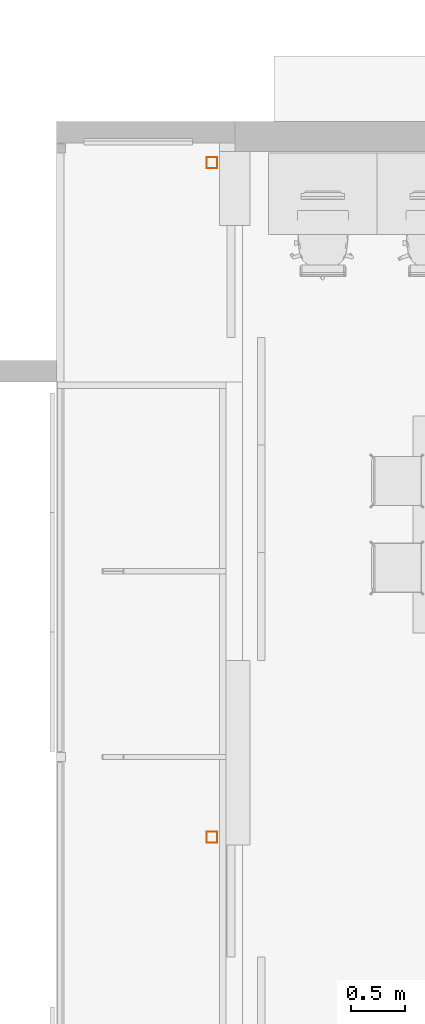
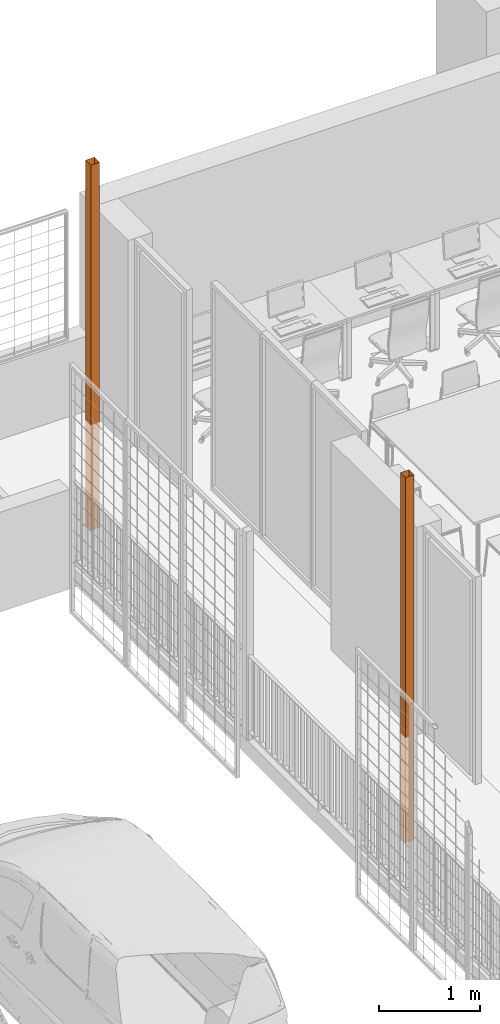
# One storey, part 50 of 51: 2 proxies.
"""IFC2X3 building model written with IfcOpenShell, lengths in metres."""

from ifc_helpers import new_model, entity, si_unit, converted_unit, derived_unit, direction, frame, origin, place, context, subcontext, project, spatial, faceted_brep, source, transform, mapped, material, type_object, type_shapes, element, save


model = new_model("IFC2X3")

# Units and contexts
model_context = context("Model", 3, precision=1e-05, world=origin(), true_north=direction((6.123031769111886e-17, 1.0)))
body_context = subcontext(model_context, "Body", "Model", "MODEL_VIEW")
ifc_project = project(units=[si_unit("LENGTHUNIT", "METRE"), si_unit("AREAUNIT", "SQUARE_METRE"), si_unit("VOLUMEUNIT", "CUBIC_METRE"), converted_unit("PLANEANGLEUNIT", "DEGREE", entity("IfcRatioMeasure", 0.017453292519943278), si_unit("PLANEANGLEUNIT", "RADIAN"), dimensions=[0, 0, 0, 0, 0, 0, 0]), si_unit("MASSUNIT", "GRAM", prefix="KILO"), derived_unit("MASSDENSITYUNIT", [(si_unit("MASSUNIT", "GRAM", prefix="KILO"), 1), (si_unit("LENGTHUNIT", "METRE"), -3)]), derived_unit("MOMENTOFINERTIAUNIT", [(si_unit("LENGTHUNIT", "METRE"), 4)]), si_unit("TIMEUNIT", "SECOND"), si_unit("FREQUENCYUNIT", "HERTZ"), si_unit("THERMODYNAMICTEMPERATUREUNIT", "DEGREE_CELSIUS"), derived_unit("THERMALTRANSMITTANCEUNIT", [(si_unit("MASSUNIT", "GRAM", prefix="KILO"), 1), (si_unit("THERMODYNAMICTEMPERATUREUNIT", "KELVIN"), -1), (si_unit("TIMEUNIT", "SECOND"), -3)]), derived_unit("THERMALCONDUCTANCEUNIT", [(si_unit("MASSUNIT", "GRAM", prefix="KILO"), 1), (si_unit("LENGTHUNIT", "METRE"), 1), (si_unit("THERMODYNAMICTEMPERATUREUNIT", "KELVIN"), -1), (si_unit("TIMEUNIT", "SECOND"), -3)]), derived_unit("VOLUMETRICFLOWRATEUNIT", [(si_unit("LENGTHUNIT", "METRE"), 3), (si_unit("TIMEUNIT", "SECOND"), -1)]), derived_unit("MASSFLOWRATEUNIT", [(si_unit("MASSUNIT", "GRAM", prefix="KILO"), 1), (si_unit("TIMEUNIT", "SECOND"), -1)]), derived_unit("ROTATIONALFREQUENCYUNIT", [(si_unit("TIMEUNIT", "SECOND"), -1)]), si_unit("ELECTRICCURRENTUNIT", "AMPERE"), si_unit("ELECTRICVOLTAGEUNIT", "VOLT"), si_unit("POWERUNIT", "WATT"), si_unit("FORCEUNIT", "NEWTON", prefix="KILO"), si_unit("ILLUMINANCEUNIT", "LUX"), si_unit("LUMINOUSFLUXUNIT", "LUMEN"), si_unit("LUMINOUSINTENSITYUNIT", "CANDELA"), derived_unit("USERDEFINED", [(si_unit("MASSUNIT", "GRAM", prefix="KILO"), -1), (si_unit("LENGTHUNIT", "METRE"), -2), (si_unit("TIMEUNIT", "SECOND"), 3), (si_unit("LUMINOUSFLUXUNIT", "LUMEN"), 1)]), derived_unit("USERDEFINED", [(si_unit("MASSUNIT", "GRAM", prefix="KILO"), 1), (si_unit("LENGTHUNIT", "METRE"), 3), (si_unit("TIMEUNIT", "SECOND"), -3), (si_unit("ELECTRICCURRENTUNIT", "AMPERE"), -2)]), derived_unit("USERDEFINED", [(si_unit("LENGTHUNIT", "METRE"), 2), (si_unit("TIMEUNIT", "SECOND"), -2)]), derived_unit("SOUNDPOWERUNIT", [(si_unit("MASSUNIT", "GRAM", prefix="KILO"), 1), (si_unit("LENGTHUNIT", "METRE"), 2), (si_unit("TIMEUNIT", "SECOND"), -3)]), derived_unit("SOUNDPRESSUREUNIT", [(si_unit("MASSUNIT", "GRAM", prefix="KILO"), 1), (si_unit("LENGTHUNIT", "METRE"), -1), (si_unit("TIMEUNIT", "SECOND"), -2)]), derived_unit("LINEARVELOCITYUNIT", [(si_unit("LENGTHUNIT", "METRE"), 1), (si_unit("TIMEUNIT", "SECOND"), -1)]), si_unit("PRESSUREUNIT", "PASCAL"), derived_unit("USERDEFINED", [(si_unit("LENGTHUNIT", "METRE"), -2), (si_unit("MASSUNIT", "GRAM", prefix="KILO"), 1), (si_unit("TIMEUNIT", "SECOND"), -2)]), derived_unit("LINEARFORCEUNIT", [(si_unit("MASSUNIT", "GRAM", prefix="KILO"), 1), (si_unit("LENGTHUNIT", "METRE"), 1), (si_unit("TIMEUNIT", "SECOND"), -2), (si_unit("LENGTHUNIT", "METRE"), -1)]), derived_unit("PLANARFORCEUNIT", [(si_unit("MASSUNIT", "GRAM", prefix="KILO"), 1), (si_unit("LENGTHUNIT", "METRE"), 1), (si_unit("TIMEUNIT", "SECOND"), -2), (si_unit("LENGTHUNIT", "METRE"), -2)]), derived_unit("SPECIFICHEATCAPACITYUNIT", [(si_unit("LENGTHUNIT", "METRE"), 2), (si_unit("TIMEUNIT", "SECOND"), -2), (si_unit("THERMODYNAMICTEMPERATUREUNIT", "KELVIN"), -1)]), derived_unit("VAPORPERMEABILITYUNIT", [(si_unit("TIMEUNIT", "SECOND"), 1), (si_unit("LENGTHUNIT", "METRE"), -1)]), derived_unit("DYNAMICVISCOSITYUNIT", [(si_unit("MASSUNIT", "GRAM", prefix="KILO"), 1), (si_unit("LENGTHUNIT", "METRE"), -1), (si_unit("TIMEUNIT", "SECOND"), -1)]), derived_unit("THERMALEXPANSIONCOEFFICIENTUNIT", [(si_unit("THERMODYNAMICTEMPERATUREUNIT", "KELVIN"), -1)])], contexts=[model_context])

# Site, building, storey
site_placement = place(None, origin())
site = spatial("IfcSite", under=ifc_project, at=site_placement, Name="Default", CompositionType="ELEMENT")
building_placement = place(site_placement, origin())
building = spatial("IfcBuilding", under=site, at=building_placement, CompositionType="ELEMENT")
storey_placement = place(building_placement, frame((0.0, 0.0, 3.06)))
storey = spatial("IfcBuildingStorey", under=building, at=storey_placement, Name="ÉTAGE", CompositionType="ELEMENT", Elevation=3.06)

# Proxies
ifc_material = material(Name="Métal - Zinc")
building_element_proxy_type_1 = type_object("IfcBuildingElementProxyType", Name="Symb-0003", PredefinedType="NOTDEFINED", material=ifc_material)
shared_shape_1 = source(origin(), body_context, "Body", "Brep", [
    faceted_brep([(0.0, 0.0, 4.4), (0.0, 0.0, 0.0), (0.10000000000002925, 0.0, 0.0), (0.10000000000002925, 0.0, 4.4), (0.0, 0.10000000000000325, 4.4), (0.0, 0.10000000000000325, 0.0), (0.10000000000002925, 0.10000000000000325, 0.0), (0.10000000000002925, 0.10000000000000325, 4.4)], [[[0, 1, 2, 3]], [[4, 5, 1, 0]], [[3, 2, 6, 7]], [[7, 6, 5, 4]]]),
])
type_shapes(building_element_proxy_type_1, [shared_shape_1])
proxy_1_placement = place(storey_placement, frame((141.28075215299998, 19.5972094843, -0.060000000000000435)))
element("IfcBuildingElementProxy", 1, at=proxy_1_placement, inside=storey, type_object=building_element_proxy_type_1, material=ifc_material, Name="Symb-0003 824296:Symb-0003 824296", ObjectType="Symb-0003 824296:Symb-0003 824296", context=body_context, shape_type="MappedRepresentation", body=[
    mapped(shared_shape_1, transform((0.0, 0.0, 0.0), scale=1.0)),
])
building_element_proxy_type_2 = type_object("IfcBuildingElementProxyType", Name="Symb-0003", PredefinedType="NOTDEFINED", material=ifc_material)
shared_shape_2 = source(origin(), body_context, "Body", "Brep", [
    faceted_brep([(0.0, 0.0, 4.4), (0.0, 0.0, 0.0), (0.10000000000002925, 0.0, 0.0), (0.10000000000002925, 0.0, 4.4), (0.0, 0.10000000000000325, 4.4), (0.0, 0.10000000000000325, 0.0), (0.10000000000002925, 0.10000000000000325, 0.0), (0.10000000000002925, 0.10000000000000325, 4.4)], [[[0, 1, 2, 3]], [[4, 5, 1, 0]], [[3, 2, 6, 7]], [[7, 6, 5, 4]]]),
])
type_shapes(building_element_proxy_type_2, [shared_shape_2])
proxy_2_placement = place(storey_placement, frame((141.28075215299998, 25.807209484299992, -0.060000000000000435)))
element("IfcBuildingElementProxy", 2, at=proxy_2_placement, inside=storey, type_object=building_element_proxy_type_2, material=ifc_material, Name="Symb-0003 843003:Symb-0003 843003", ObjectType="Symb-0003 843003:Symb-0003 843003", context=body_context, shape_type="MappedRepresentation", body=[
    mapped(shared_shape_2, transform((0.0, 0.0, 0.0), scale=1.0)),
])

save(model, "model.ifc")
